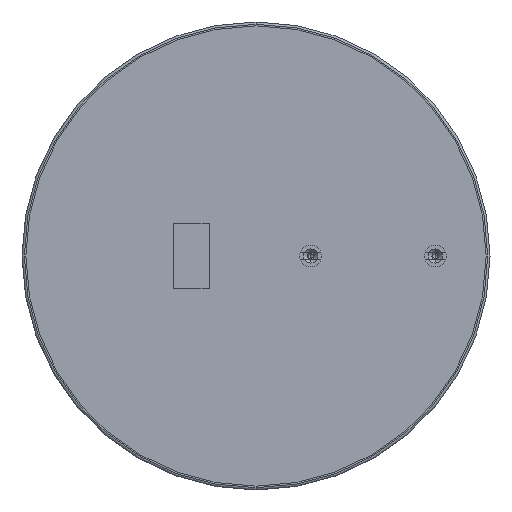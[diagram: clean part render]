
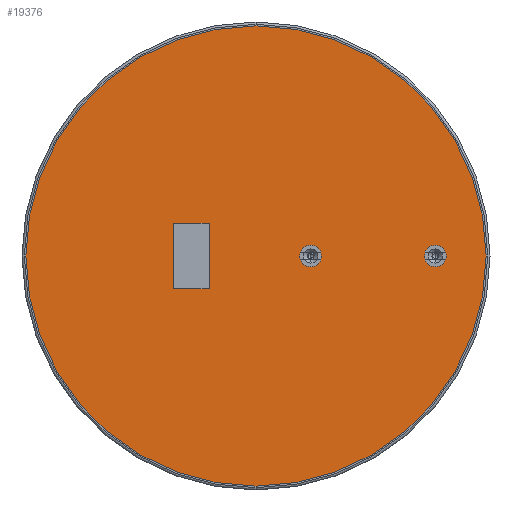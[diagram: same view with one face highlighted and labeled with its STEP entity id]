
A CAD part, front view. The second image highlights one B-rep face of the part: STEP entity #19376.
In plain terms, the highlighted planar face has unit normal (0, -1, 0).
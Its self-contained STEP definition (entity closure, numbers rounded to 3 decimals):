
#474 = DIRECTION ( 'NONE',  ( 0., 1., 0. ) ) ;
#579 = EDGE_CURVE ( 'NONE', #1646, #15790, #6967, .T. ) ;
#606 = DIRECTION ( 'NONE',  ( 1., 0., 0. ) ) ;
#1644 = LINE ( 'NONE', #6050, #25481 ) ;
#1646 = VERTEX_POINT ( 'NONE', #19084 ) ;
#1905 = AXIS2_PLACEMENT_3D ( 'NONE', #2145, #11431, #27750 ) ;
#2106 = AXIS2_PLACEMENT_3D ( 'NONE', #6780, #16512, #16059 ) ;
#2145 = CARTESIAN_POINT ( 'NONE',  ( -82.334, -114.731, 41.015 ) ) ;
#2405 = ORIENTED_EDGE ( 'NONE', *, *, #28016, .T. ) ;
#2574 = AXIS2_PLACEMENT_3D ( 'NONE', #22707, #26994, #22558 ) ;
#3036 = FACE_OUTER_BOUND ( 'NONE', #8603, .T. ) ;
#4989 = CIRCLE ( 'NONE', #2574, 147.5 ) ;
#5022 = DIRECTION ( 'NONE',  ( 1., 0., 0. ) ) ;
#5064 = CARTESIAN_POINT ( 'NONE',  ( -112.334, -114.731, 20.015 ) ) ;
#5148 = CARTESIAN_POINT ( 'NONE',  ( 32.666, -114.731, 41.015 ) ) ;
#6050 = CARTESIAN_POINT ( 'NONE',  ( -112.334, -114.731, 20.015 ) ) ;
#6780 = CARTESIAN_POINT ( 'NONE',  ( -47.334, -114.731, 41.015 ) ) ;
#6788 = LINE ( 'NONE', #18199, #26813 ) ;
#6967 = CIRCLE ( 'NONE', #2106, 7. ) ;
#7244 = LINE ( 'NONE', #11850, #24860 ) ;
#7281 = EDGE_CURVE ( 'NONE', #22479, #21028, #6788, .T. ) ;
#7735 = FACE_BOUND ( 'NONE', #16825, .T. ) ;
#8103 = EDGE_CURVE ( 'NONE', #14943, #13524, #26156, .T. ) ;
#8603 = EDGE_LOOP ( 'NONE', ( #27468, #10300 ) ) ;
#9070 = ORIENTED_EDGE ( 'NONE', *, *, #25188, .T. ) ;
#9698 = ORIENTED_EDGE ( 'NONE', *, *, #8103, .T. ) ;
#9872 = FACE_BOUND ( 'NONE', #13428, .T. ) ;
#10300 = ORIENTED_EDGE ( 'NONE', *, *, #27009, .F. ) ;
#10629 = ORIENTED_EDGE ( 'NONE', *, *, #26618, .T. ) ;
#10706 = CARTESIAN_POINT ( 'NONE',  ( -135.334, -114.731, 62.015 ) ) ;
#10711 = CARTESIAN_POINT ( 'NONE',  ( -112.334, -114.731, 62.015 ) ) ;
#10891 = EDGE_LOOP ( 'NONE', ( #28979, #9070, #2405, #29497 ) ) ;
#11431 = DIRECTION ( 'NONE',  ( 0., 1., 0. ) ) ;
#11850 = CARTESIAN_POINT ( 'NONE',  ( -112.334, -114.731, 62.015 ) ) ;
#12112 = CIRCLE ( 'NONE', #1905, 147.5 ) ;
#12235 = DIRECTION ( 'NONE',  ( 1., 0., 0. ) ) ;
#13122 = CARTESIAN_POINT ( 'NONE',  ( -47.334, -114.731, 41.015 ) ) ;
#13428 = EDGE_LOOP ( 'NONE', ( #25969, #10629 ) ) ;
#13524 = VERTEX_POINT ( 'NONE', #20978 ) ;
#13531 = EDGE_CURVE ( 'NONE', #13524, #14943, #23759, .T. ) ;
#14139 = CIRCLE ( 'NONE', #24379, 7. ) ;
#14880 = PLANE ( 'NONE',  #16382 ) ;
#14943 = VERTEX_POINT ( 'NONE', #24345 ) ;
#15222 = ORIENTED_EDGE ( 'NONE', *, *, #13531, .T. ) ;
#15502 = CARTESIAN_POINT ( 'NONE',  ( -135.334, -114.731, 20.015 ) ) ;
#15672 = VERTEX_POINT ( 'NONE', #21080 ) ;
#15790 = VERTEX_POINT ( 'NONE', #22437 ) ;
#16059 = DIRECTION ( 'NONE',  ( 1., 0., 0. ) ) ;
#16170 = LINE ( 'NONE', #25451, #27569 ) ;
#16382 = AXIS2_PLACEMENT_3D ( 'NONE', #24196, #474, #5022 ) ;
#16512 = DIRECTION ( 'NONE',  ( 0., 1., 0. ) ) ;
#16825 = EDGE_LOOP ( 'NONE', ( #9698, #15222 ) ) ;
#18199 = CARTESIAN_POINT ( 'NONE',  ( -135.334, -114.731, 62.015 ) ) ;
#18774 = DIRECTION ( 'NONE',  ( 0., 1., 0. ) ) ;
#19022 = FACE_BOUND ( 'NONE', #10891, .T. ) ;
#19084 = CARTESIAN_POINT ( 'NONE',  ( -54.334, -114.731, 41.015 ) ) ;
#19376 = ADVANCED_FACE ( 'NONE', ( #7735, #9872, #3036, #19022 ), #14880, .F. ) ;
#19888 = EDGE_CURVE ( 'NONE', #21028, #26392, #16170, .T. ) ;
#19968 = DIRECTION ( 'NONE',  ( 1., 0., 0. ) ) ;
#20339 = AXIS2_PLACEMENT_3D ( 'NONE', #5148, #23741, #606 ) ;
#20978 = CARTESIAN_POINT ( 'NONE',  ( 39.666, -114.731, 41.015 ) ) ;
#21028 = VERTEX_POINT ( 'NONE', #10706 ) ;
#21080 = CARTESIAN_POINT ( 'NONE',  ( 65.166, -114.731, 41.015 ) ) ;
#22437 = CARTESIAN_POINT ( 'NONE',  ( -40.334, -114.731, 41.015 ) ) ;
#22479 = VERTEX_POINT ( 'NONE', #15502 ) ;
#22558 = DIRECTION ( 'NONE',  ( 1., 0., 0. ) ) ;
#22707 = CARTESIAN_POINT ( 'NONE',  ( -82.334, -114.731, 41.015 ) ) ;
#22745 = DIRECTION ( 'NONE',  ( 1., 0., 0. ) ) ;
#23249 = CARTESIAN_POINT ( 'NONE',  ( -229.834, -114.731, 41.015 ) ) ;
#23525 = EDGE_CURVE ( 'NONE', #28172, #15672, #12112, .T. ) ;
#23741 = DIRECTION ( 'NONE',  ( 0., 1., 0. ) ) ;
#23759 = CIRCLE ( 'NONE', #20339, 7. ) ;
#23810 = CARTESIAN_POINT ( 'NONE',  ( 32.666, -114.731, 41.015 ) ) ;
#24196 = CARTESIAN_POINT ( 'NONE',  ( -82.334, -114.731, 41.015 ) ) ;
#24345 = CARTESIAN_POINT ( 'NONE',  ( 25.666, -114.731, 41.015 ) ) ;
#24379 = AXIS2_PLACEMENT_3D ( 'NONE', #13122, #29287, #19968 ) ;
#24637 = DIRECTION ( 'NONE',  ( -1., 0., 0. ) ) ;
#24860 = VECTOR ( 'NONE', #27851, 1000. ) ;
#25188 = EDGE_CURVE ( 'NONE', #26392, #30008, #7244, .T. ) ;
#25451 = CARTESIAN_POINT ( 'NONE',  ( -112.334, -114.731, 62.015 ) ) ;
#25481 = VECTOR ( 'NONE', #24637, 1000. ) ;
#25649 = DIRECTION ( 'NONE',  ( 0., 0., 1. ) ) ;
#25969 = ORIENTED_EDGE ( 'NONE', *, *, #579, .T. ) ;
#26156 = CIRCLE ( 'NONE', #26634, 7. ) ;
#26392 = VERTEX_POINT ( 'NONE', #10711 ) ;
#26618 = EDGE_CURVE ( 'NONE', #15790, #1646, #14139, .T. ) ;
#26634 = AXIS2_PLACEMENT_3D ( 'NONE', #23810, #18774, #12235 ) ;
#26813 = VECTOR ( 'NONE', #25649, 1000. ) ;
#26994 = DIRECTION ( 'NONE',  ( 0., 1., 0. ) ) ;
#27009 = EDGE_CURVE ( 'NONE', #15672, #28172, #4989, .T. ) ;
#27468 = ORIENTED_EDGE ( 'NONE', *, *, #23525, .F. ) ;
#27569 = VECTOR ( 'NONE', #22745, 1000. ) ;
#27750 = DIRECTION ( 'NONE',  ( 1., 0., 0. ) ) ;
#27851 = DIRECTION ( 'NONE',  ( 0., 0., -1. ) ) ;
#28016 = EDGE_CURVE ( 'NONE', #30008, #22479, #1644, .T. ) ;
#28172 = VERTEX_POINT ( 'NONE', #23249 ) ;
#28979 = ORIENTED_EDGE ( 'NONE', *, *, #19888, .T. ) ;
#29287 = DIRECTION ( 'NONE',  ( 0., 1., 0. ) ) ;
#29497 = ORIENTED_EDGE ( 'NONE', *, *, #7281, .T. ) ;
#30008 = VERTEX_POINT ( 'NONE', #5064 ) ;
